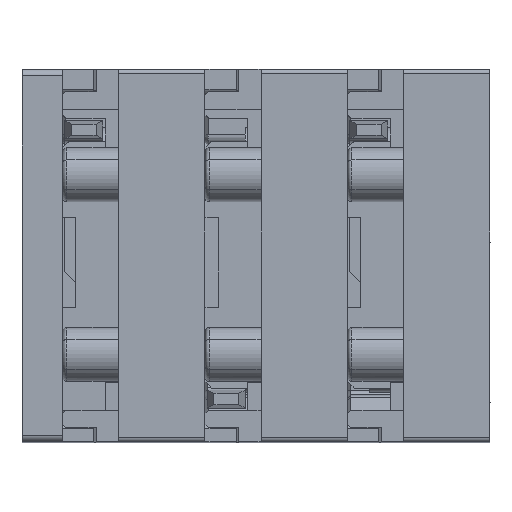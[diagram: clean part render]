
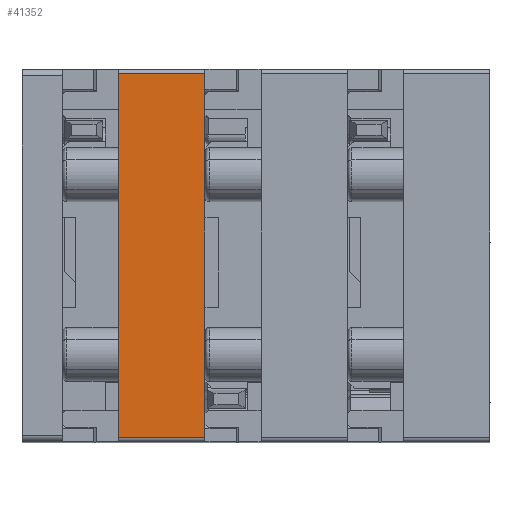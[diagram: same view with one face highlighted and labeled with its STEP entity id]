
A CAD part, top view. The second image highlights one B-rep face of the part: STEP entity #41352.
In plain terms, the highlighted planar face has unit normal (0, 0, 1).
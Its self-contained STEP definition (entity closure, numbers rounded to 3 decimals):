
#2779=DIRECTION('',(0.,1.,0.));
#2780=VECTOR('',#2779,16.2);
#2781=CARTESIAN_POINT('',(-16.55,0.2,0.3));
#2782=LINE('',#2781,#2780);
#2783=DIRECTION('',(0.,-1.,0.));
#2784=VECTOR('',#2783,16.2);
#2785=CARTESIAN_POINT('',(-12.7,16.4,0.3));
#2786=LINE('',#2785,#2784);
#2791=DIRECTION('',(-1.,0.,0.));
#2792=VECTOR('',#2791,3.85);
#2793=CARTESIAN_POINT('',(-12.7,16.4,0.3));
#2794=LINE('',#2793,#2792);
#22418=DIRECTION('',(1.,0.,0.));
#22419=VECTOR('',#22418,3.85);
#22420=CARTESIAN_POINT('',(-16.55,0.2,0.3));
#22421=LINE('',#22420,#22419);
#33345=CARTESIAN_POINT('',(-12.7,0.2,0.3));
#33346=VERTEX_POINT('',#33345);
#33347=CARTESIAN_POINT('',(-12.7,16.4,0.3));
#33348=VERTEX_POINT('',#33347);
#35355=CARTESIAN_POINT('',(-16.55,0.2,0.3));
#35356=CARTESIAN_POINT('',(-16.55,16.4,0.3));
#35357=VERTEX_POINT('',#35355);
#35358=VERTEX_POINT('',#35356);
#41338=CARTESIAN_POINT('',(-14.625,8.3,0.3));
#41339=DIRECTION('',(0.,0.,1.));
#41340=DIRECTION('',(0.,1.,0.));
#41341=AXIS2_PLACEMENT_3D('',#41338,#41339,#41340);
#41342=PLANE('',#41341);
#41343=ORIENTED_EDGE('',*,*,#41310,.T.);
#41345=ORIENTED_EDGE('',*,*,#41344,.F.);
#41347=ORIENTED_EDGE('',*,*,#41346,.T.);
#41349=ORIENTED_EDGE('',*,*,#41348,.F.);
#41350=EDGE_LOOP('',(#41343,#41345,#41347,#41349));
#41351=FACE_OUTER_BOUND('',#41350,.F.);
#41352=ADVANCED_FACE('',(#41351),#41342,.T.);
#41310=EDGE_CURVE('',#35357,#35358,#2782,.T.);
#41344=EDGE_CURVE('',#33348,#35358,#2794,.T.);
#41346=EDGE_CURVE('',#33348,#33346,#2786,.T.);
#41348=EDGE_CURVE('',#35357,#33346,#22421,.T.);
